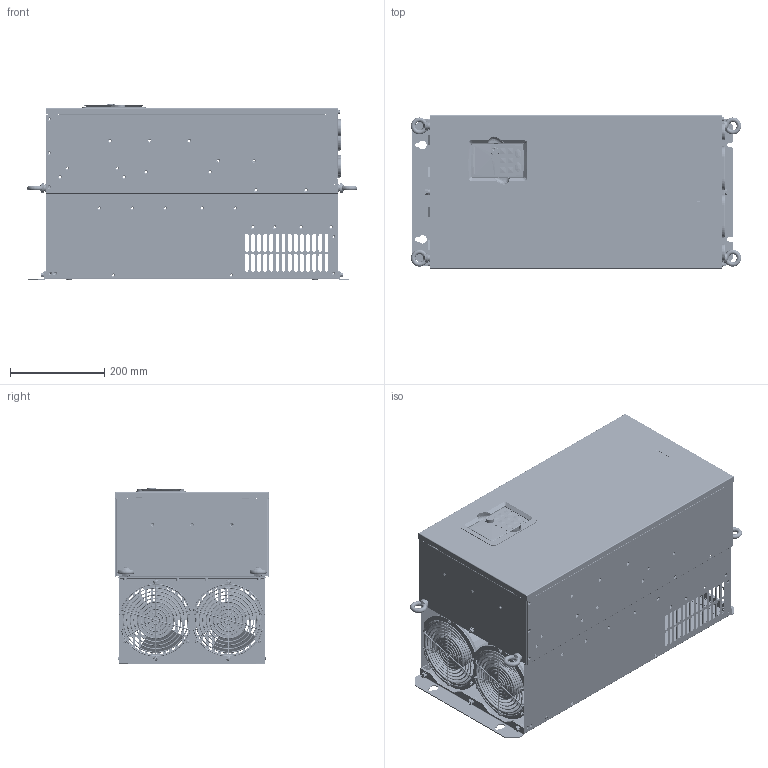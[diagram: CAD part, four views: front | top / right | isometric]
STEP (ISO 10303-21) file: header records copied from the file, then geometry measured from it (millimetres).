
FILE_DESCRIPTION((''),'2;1');
FILE_NAME('GD300-110G-4_ASM','2016-03-10T',('Administrator'),(''),'PRO/ENGINEER BY PARAMETRIC TECHNOLOGY CORPORATION, 2010100','PRO/ENGINEER BY PARAMETRIC TECHNOLOGY CORPORATION, 2010100','');
FILE_SCHEMA(('CONFIG_CONTROL_DESIGN'));
Products named in the file (67): FAN-171X151_SS; FAN-171X151_DC-FENZHAO; FAN-ASM-SS_ASM; TERMINAL_01-SS; TERMINAL_BRACKET_SS; TERMINAL_HP_RT200-SS_ASM; FENSANDUANZI_SS; INVT8_034_005SSS; INVT8_034_005SSSFDF; JP-PCSSSS; DIANWEIEFFS; INVT8_034_006SDFE; INVT8_034_00SSF; INVT8_034_006SDSS; SHUMAGUASSDF; 001-SSS_ASM; TERMINAL_HP_RT20SS_ASM; 006SSSS; 005SSSS; CONTROL_PCB_01_SSS; CONTROL_TERMINAL_02_SSS; CONTROL_TERMINAL_01_SSS; 80780002; INVT8_034_0058__0; INVT8_034_0059__0; INVT8_034_0060__0; INVT8_034_0065__0; INVT8_034_0064__0; SHUMAGUAN__0; AA-SU_ASM; CONTROL_PCB_SSSS_ASM; GD300-110G-4-ES_ASM; GB819_1_M4X8_ZB; GB9074_4_M4X60; GB9074_4_M4X16; GB9074_4_M3X8; GB9074_4_M4X10; GB9074_13_M6X16; GD300-110G-4-FS_ASM; 80381363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
Assembly tree (151 placements, depth 5):
  GD300-110G-4_ASM
    GD300-110G-4-ES_ASM
      FAN-ASM-SS_ASM
        FAN-171X151_SS  x2
        FAN-171X151_DC-FENZHAO  x2
      TERMINAL_HP_RT200-SS_ASM
        TERMINAL_01-SS  x6
        TERMINAL_BRACKET_SS  x2
      FENSANDUANZI_SS
      001-SSS_ASM
        INVT8_034_005SSS
        INVT8_034_005SSSFDF
        JP-PCSSSS
        DIANWEIEFFS
        INVT8_034_006SDFE
        INVT8_034_00SSF
        INVT8_034_006SDSS
        SHUMAGUASSDF
      TERMINAL_HP_RT20SS_ASM
        TERMINAL_01-SS  x5
        TERMINAL_BRACKET_SS  x2
      006SSSS  x4
      005SSSS  x3
      CONTROL_PCB_SSSS_ASM
        CONTROL_PCB_01_SSS
        CONTROL_TERMINAL_02_SSS
        CONTROL_TERMINAL_01_SSS
        80780002
        AA-SU_ASM
          INVT8_034_0058__0
          INVT8_034_0059__0
          INVT8_034_0060__0
          INVT8_034_0065__0
          INVT8_034_0064__0
          SHUMAGUAN__0
    GD300-110G-4-FS_ASM
      GB819_1_M4X8_ZB  x2
      GB9074_4_M4X60  x8
      GB9074_4_M4X16  x3
      GB9074_4_M3X8  x2
      GB9074_4_M4X10  x2
      GB9074_13_M6X16  x8
    40800229_ASM
      61060180_ASM
        80381363_ASM
          80381363
          S-M8-ZC  x3
          SO-M4-10-ZC  x4
        80381434_ASM
          80381434
          S-M4-ZC  x6
        80380030
        80381435_ASM
          80381435
          S-M4-ZC  x18
          S-M8-ZC  x3
        GB12617_4_4X10_SL  x6
        80380181  x2
      80380027
      80380024
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Bounding box: 700 x 325.23 x 373.57 mm (x, y, z)
Volume: 4009913.9 mm3; surface area: 3682737.3 mm2
Topology: 196 solids, 205 shells, 11723 faces, 30179 edges, 19218 vertices
Faces by surface type: plane 6554, cylinder 3591, cone 634, bspline 426, torus 424, sphere 84, extrusion 10
Entity records: 239572 total; most frequent: CARTESIAN_POINT 59861, ORIENTED_EDGE 37369, DIRECTION 37028, EDGE_CURVE 18713, AXIS2_PLACEMENT_3D 12982, VERTEX_POINT 11940, VECTOR 11064, LINE 11054
